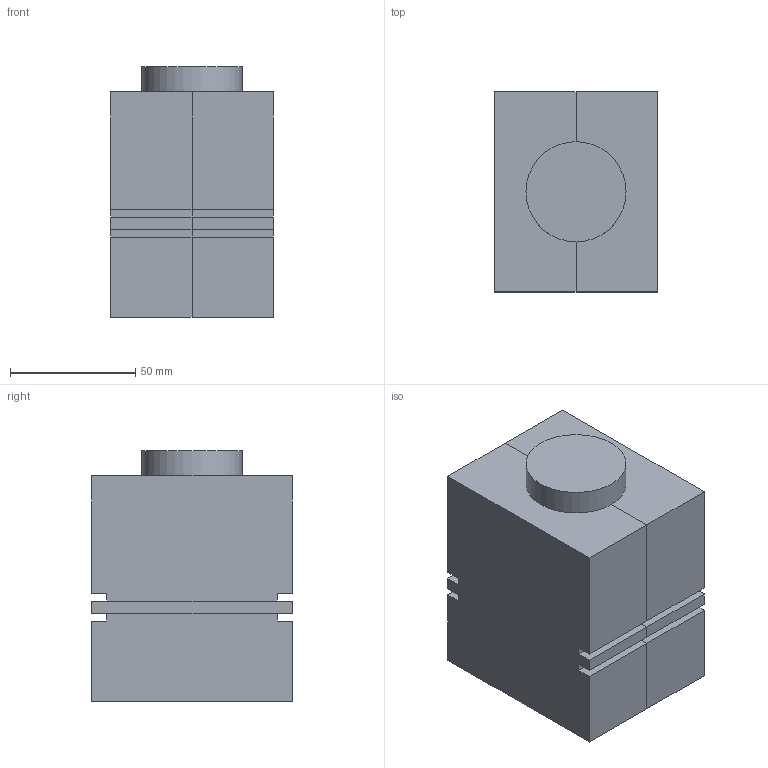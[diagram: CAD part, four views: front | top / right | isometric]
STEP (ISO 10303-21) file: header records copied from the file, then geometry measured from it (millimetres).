
FILE_DESCRIPTION(/* description */ (''),/* implementation_level */ '2;1');
FILE_NAME(/* name */ 'MOULE FLD.step',/* time_stamp */ '2024-08-24T16:42:15+02:00',/* author */ (''),/* organization */ (''),/* preprocessor_version */ 'ST-DEVELOPER v20',/* originating_system */ 'Autodesk Translation Framework v13.14.0.145',/* authorisation */ '');
FILE_SCHEMA (('AUTOMOTIVE_DESIGN { 1 0 10303 214 3 1 1 }'));
Length unit declared in the file: millimetre
Products named in the file (18): fld droit; insert; fld; fld version clip; inf droit; inf gauche; sup gauche; inter gauche; inter droite; sup droite; poincon; inter droite clip; inter gauche clip; STANDARDS; E_1200_6x35_1 v1; E_1200_5x16_1 v1; E_1200_8x40_1 v1; E_1301_8x16_1 (1) v1
Assembly tree (29 placements, depth 3):
  fld droit
    insert
    fld
    fld version clip
    inf droit
    inf gauche
    sup gauche
    inter gauche
    inter droite
    sup droite
    poincon
    inter droite clip
    inter gauche clip
    STANDARDS
      E_1301_8x16_1 (1) v1  x8
      E_1200_6x35_1 v1  x4
      E_1200_5x16_1 v1  x2
      E_1200_8x40_1 v1  x2
Bounding box: 64.85 x 80 x 100 mm (x, y, z)
Volume: 499361.7 mm3; surface area: 128695.7 mm2
Topology: 28 solids, 28 shells, 644 faces, 1520 edges, 969 vertices
Faces by surface type: plane 314, cylinder 201, cone 46, bspline 41, sphere 22, torus 20
Full cylindrical faces by diameter (mm): 4.234 x2, 5 x2, 5.035 x8, 6 x4, 6.02 x4, 6.75 x24, 6.779 x2, 8 x34, 8.02 x2, 8.5 x2, 9 x6, 10 x4, 11 x4, 13 x2, 15 x2, 25 x3, 29.3 x2, 40 x1
Entity records: 18478 total; most frequent: CARTESIAN_POINT 5603, DIRECTION 2631, ORIENTED_EDGE 2474, EDGE_CURVE 1237, AXIS2_PLACEMENT_3D 968, VERTEX_POINT 811, LINE 695, VECTOR 695
